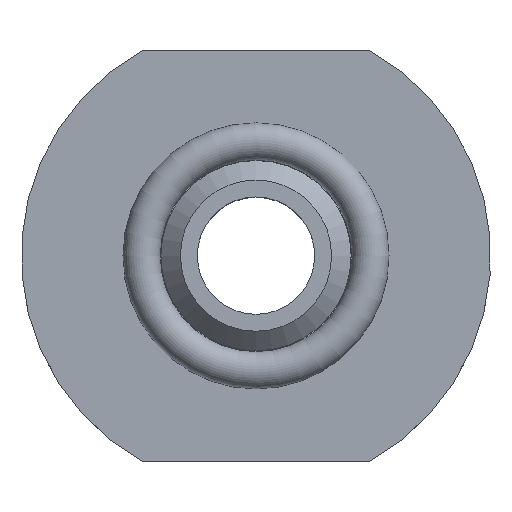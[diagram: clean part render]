
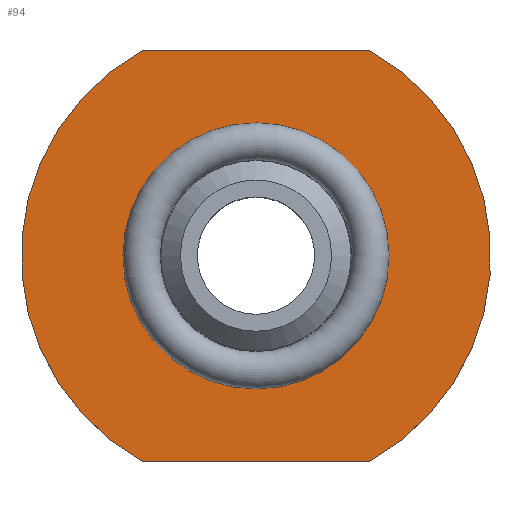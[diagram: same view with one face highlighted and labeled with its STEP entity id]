
A CAD part, top view. The second image highlights one B-rep face of the part: STEP entity #94.
In plain terms, the highlighted planar face has unit normal (0, 0, 1).
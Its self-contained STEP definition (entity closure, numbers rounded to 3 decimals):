
#94=ADVANCED_FACE('',(#191,#192),#193,.T.);
#191=FACE_BOUND('',#294,.T.);
#192=FACE_OUTER_BOUND('',#295,.T.);
#193=PLANE('',#296);
#294=EDGE_LOOP('',(#413));
#295=EDGE_LOOP('',(#414,#415,#416,#417));
#296=AXIS2_PLACEMENT_3D('',#418,#419,#420);
#413=ORIENTED_EDGE('',*,*,#528,.F.);
#414=ORIENTED_EDGE('',*,*,#508,.T.);
#415=ORIENTED_EDGE('',*,*,#529,.T.);
#416=ORIENTED_EDGE('',*,*,#515,.T.);
#417=ORIENTED_EDGE('',*,*,#530,.T.);
#418=CARTESIAN_POINT('',(0.0,0.0,0.797));
#419=DIRECTION('',(0.0,0.0,1.0));
#420=DIRECTION('',(1.0,0.0,0.0));
#508=EDGE_CURVE('',#568,#565,#569,.T.);
#515=EDGE_CURVE('',#575,#579,#581,.T.);
#528=EDGE_CURVE('',#598,#598,#599,.T.);
#529=EDGE_CURVE('',#565,#575,#600,.T.);
#530=EDGE_CURVE('',#579,#568,#601,.T.);
#565=VERTEX_POINT('',#644);
#568=VERTEX_POINT('',#648);
#569=CIRCLE('',#649,12.0);
#575=VERTEX_POINT('',#656);
#579=VERTEX_POINT('',#661);
#581=CIRCLE('',#664,12.0);
#598=VERTEX_POINT('',#683);
#599=CIRCLE('',#684,6.8);
#600=LINE('',#685,#686);
#601=LINE('',#687,#688);
#644=CARTESIAN_POINT('',(5.809,10.5,0.797));
#648=CARTESIAN_POINT('',(5.809,-10.5,0.797));
#649=AXIS2_PLACEMENT_3D('',#733,#734,#735);
#656=CARTESIAN_POINT('',(-5.809,10.5,0.797));
#661=CARTESIAN_POINT('',(-5.809,-10.5,0.797));
#664=AXIS2_PLACEMENT_3D('',#745,#746,#747);
#683=CARTESIAN_POINT('',(6.8,0.,0.797));
#684=AXIS2_PLACEMENT_3D('',#762,#763,#764);
#685=CARTESIAN_POINT('',(0.0,10.5,0.797));
#686=VECTOR('',#765,1.0);
#687=CARTESIAN_POINT('',(0.0,-10.5,0.797));
#688=VECTOR('',#766,1.0);
#733=CARTESIAN_POINT('',(0.0,0.0,0.797));
#734=DIRECTION('',(0.0,0.0,1.0));
#735=DIRECTION('',(1.0,0.0,0.0));
#745=CARTESIAN_POINT('',(0.0,0.0,0.797));
#746=DIRECTION('',(0.0,0.0,1.0));
#747=DIRECTION('',(1.0,0.0,0.0));
#762=CARTESIAN_POINT('',(0.0,0.,0.797));
#763=DIRECTION('',(0.0,0.0,1.0));
#764=DIRECTION('',(1.0,0.0,0.0));
#765=DIRECTION('',(-1.0,0.0,0.0));
#766=DIRECTION('',(1.0,0.0,0.0));
